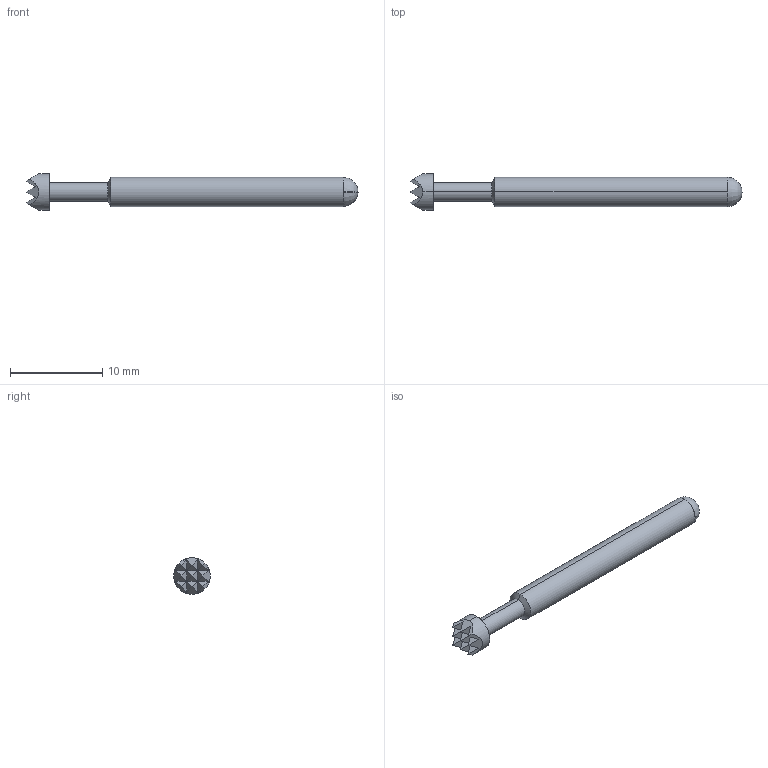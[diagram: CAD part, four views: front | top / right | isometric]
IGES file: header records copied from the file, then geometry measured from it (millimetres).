
Start section: SolidWorks IGES file using analytic representation for surfaces
Global section: file name: Z:\probe solid model mockups\Solidworks models\IGES Files\HCP-15 IGES files\HCP-15H.IGS; native system: SolidWorks 2006 by SolidWorks Corporation; preprocessor: SolidWorks 2006 by SolidWorks Corporation; author: tsakatani; date: 071202.143821; units: inch
Bounding box: 36.07 x 3.96 x 3.96 mm (x, y, z)
Surface area: 365.9 mm2 (no closed solid volume)
Topology: 0 solids, 0 shells, 39 faces, 266 edges, 264 vertices
Faces by surface type: bspline 29, revolution 10
